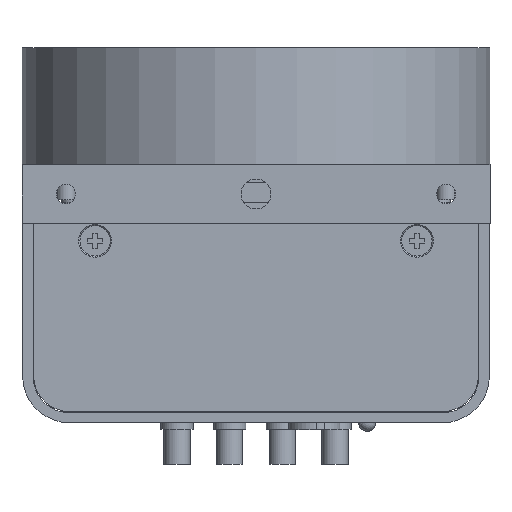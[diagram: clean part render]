
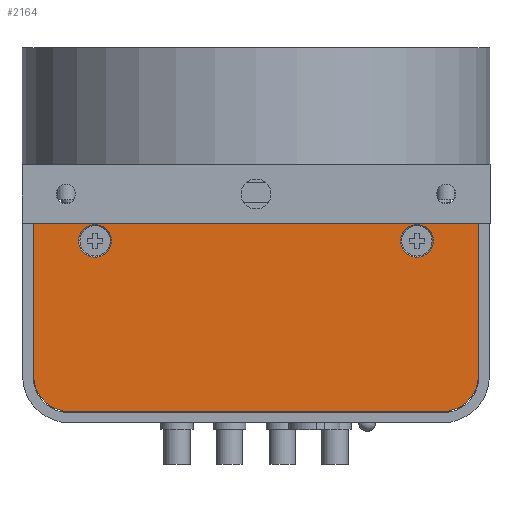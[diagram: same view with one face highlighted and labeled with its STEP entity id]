
A CAD part, front view. The second image highlights one B-rep face of the part: STEP entity #2164.
In plain terms, the highlighted planar face has unit normal (0, -1, 0).
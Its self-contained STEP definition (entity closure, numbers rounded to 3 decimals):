
#2164 = ADVANCED_FACE ( 'NONE', ( #177776, #21651, #44962 ), #110659, .T. ) ;
#2589 = CARTESIAN_POINT ( 'NONE',  ( 38., -59.7, -42.2 ) ) ;
#5391 = DIRECTION ( 'NONE',  ( 0., 0., 1. ) ) ;
#8680 = DIRECTION ( 'NONE',  ( 0., 0., -1. ) ) ;
#11284 = VECTOR ( 'NONE', #8680, 1000. ) ;
#12214 = LINE ( 'NONE', #36990, #94384 ) ;
#15722 = DIRECTION ( 'NONE',  ( 0., 0., 1. ) ) ;
#21651 = FACE_BOUND ( 'NONE', #86378, .T. ) ;
#23643 = DIRECTION ( 'NONE',  ( 0., 0., 1. ) ) ;
#26934 = VERTEX_POINT ( 'NONE', #44349 ) ;
#34941 = CARTESIAN_POINT ( 'NONE',  ( -38., -59.7, -42.2 ) ) ;
#36990 = CARTESIAN_POINT ( 'NONE',  ( 38., -59.7, -10.1 ) ) ;
#38437 = CARTESIAN_POINT ( 'NONE',  ( -31.9, -59.7, -36.1 ) ) ;
#44349 = CARTESIAN_POINT ( 'NONE',  ( -38., -59.7, -10.1 ) ) ;
#44962 = FACE_OUTER_BOUND ( 'NONE', #286227, .T. ) ;
#46338 = VERTEX_POINT ( 'NONE', #107047 ) ;
#48137 = CIRCLE ( 'NONE', #243913, 6.1 ) ;
#51247 = DIRECTION ( 'NONE',  ( 0., 1., 0. ) ) ;
#63764 = ORIENTED_EDGE ( 'NONE', *, *, #274075, .T. ) ;
#66132 = CARTESIAN_POINT ( 'NONE',  ( -31.9, -59.7, -42.2 ) ) ;
#68837 = CARTESIAN_POINT ( 'NONE',  ( 27.5, -59.7, -13. ) ) ;
#69692 = DIRECTION ( 'NONE',  ( 0., 0., 1. ) ) ;
#71942 = ORIENTED_EDGE ( 'NONE', *, *, #229741, .T. ) ;
#72894 = AXIS2_PLACEMENT_3D ( 'NONE', #68837, #51247, #23643 ) ;
#86378 = EDGE_LOOP ( 'NONE', ( #236609 ) ) ;
#88765 = DIRECTION ( 'NONE',  ( 0., -1., 0. ) ) ;
#94384 = VECTOR ( 'NONE', #101236, 1000. ) ;
#95838 = ORIENTED_EDGE ( 'NONE', *, *, #175454, .T. ) ;
#98257 = CARTESIAN_POINT ( 'NONE',  ( 38., -59.7, -10.1 ) ) ;
#101236 = DIRECTION ( 'NONE',  ( -1., 0., 0. ) ) ;
#102048 = LINE ( 'NONE', #34941, #11284 ) ;
#107047 = CARTESIAN_POINT ( 'NONE',  ( -38., -59.7, -36.1 ) ) ;
#110659 = PLANE ( 'NONE',  #257663 ) ;
#122003 = CARTESIAN_POINT ( 'NONE',  ( 27.5, -59.7, -10.2 ) ) ;
#126640 = CARTESIAN_POINT ( 'NONE',  ( 31.9, -59.7, -36.1 ) ) ;
#126791 = ORIENTED_EDGE ( 'NONE', *, *, #255603, .T. ) ;
#131380 = CARTESIAN_POINT ( 'NONE',  ( 38., -59.7, -42.2 ) ) ;
#142279 = ORIENTED_EDGE ( 'NONE', *, *, #272657, .T. ) ;
#145003 = CARTESIAN_POINT ( 'NONE',  ( 38., -59.7, -36.1 ) ) ;
#145553 = CIRCLE ( 'NONE', #205941, 6.1 ) ;
#148222 = VERTEX_POINT ( 'NONE', #267346 ) ;
#150383 = DIRECTION ( 'NONE',  ( 1., 0., 0. ) ) ;
#152715 = CIRCLE ( 'NONE', #157280, 2.8 ) ;
#157280 = AXIS2_PLACEMENT_3D ( 'NONE', #268117, #250129, #229730 ) ;
#175454 = EDGE_CURVE ( 'NONE', #287791, #234752, #48137, .T. ) ;
#177776 = FACE_BOUND ( 'NONE', #197849, .T. ) ;
#180915 = EDGE_CURVE ( 'NONE', #210976, #210976, #226595, .T. ) ;
#197849 = EDGE_LOOP ( 'NONE', ( #254283 ) ) ;
#199628 = CARTESIAN_POINT ( 'NONE',  ( 0., -59.7, -10.1 ) ) ;
#205271 = DIRECTION ( 'NONE',  ( 0., -1., 0. ) ) ;
#205941 = AXIS2_PLACEMENT_3D ( 'NONE', #38437, #205271, #5391 ) ;
#210976 = VERTEX_POINT ( 'NONE', #122003 ) ;
#211735 = EDGE_CURVE ( 'NONE', #148222, #148222, #152715, .T. ) ;
#215603 = DIRECTION ( 'NONE',  ( 0., -1., 0. ) ) ;
#222932 = LINE ( 'NONE', #2589, #247557 ) ;
#226595 = CIRCLE ( 'NONE', #72894, 2.8 ) ;
#229730 = DIRECTION ( 'NONE',  ( 0., 0., 1. ) ) ;
#229741 = EDGE_CURVE ( 'NONE', #26934, #46338, #102048, .T. ) ;
#234752 = VERTEX_POINT ( 'NONE', #145003 ) ;
#236609 = ORIENTED_EDGE ( 'NONE', *, *, #180915, .T. ) ;
#237215 = ORIENTED_EDGE ( 'NONE', *, *, #249373, .T. ) ;
#237808 = VECTOR ( 'NONE', #150383, 1000. ) ;
#238729 = VERTEX_POINT ( 'NONE', #98257 ) ;
#243913 = AXIS2_PLACEMENT_3D ( 'NONE', #126640, #215603, #15722 ) ;
#244806 = DIRECTION ( 'NONE',  ( 0., 0., 1. ) ) ;
#247557 = VECTOR ( 'NONE', #69692, 1000. ) ;
#247851 = CARTESIAN_POINT ( 'NONE',  ( 31.9, -59.7, -42.2 ) ) ;
#249373 = EDGE_CURVE ( 'NONE', #238729, #26934, #12214, .T. ) ;
#250129 = DIRECTION ( 'NONE',  ( 0., 1., 0. ) ) ;
#254283 = ORIENTED_EDGE ( 'NONE', *, *, #211735, .T. ) ;
#255603 = EDGE_CURVE ( 'NONE', #46338, #260782, #145553, .T. ) ;
#257663 = AXIS2_PLACEMENT_3D ( 'NONE', #199628, #88765, #244806 ) ;
#259787 = LINE ( 'NONE', #131380, #237808 ) ;
#260782 = VERTEX_POINT ( 'NONE', #66132 ) ;
#267346 = CARTESIAN_POINT ( 'NONE',  ( -27.5, -59.7, -10.2 ) ) ;
#268117 = CARTESIAN_POINT ( 'NONE',  ( -27.5, -59.7, -13. ) ) ;
#272657 = EDGE_CURVE ( 'NONE', #260782, #287791, #259787, .T. ) ;
#274075 = EDGE_CURVE ( 'NONE', #234752, #238729, #222932, .T. ) ;
#286227 = EDGE_LOOP ( 'NONE', ( #142279, #95838, #63764, #237215, #71942, #126791 ) ) ;
#287791 = VERTEX_POINT ( 'NONE', #247851 ) ;
